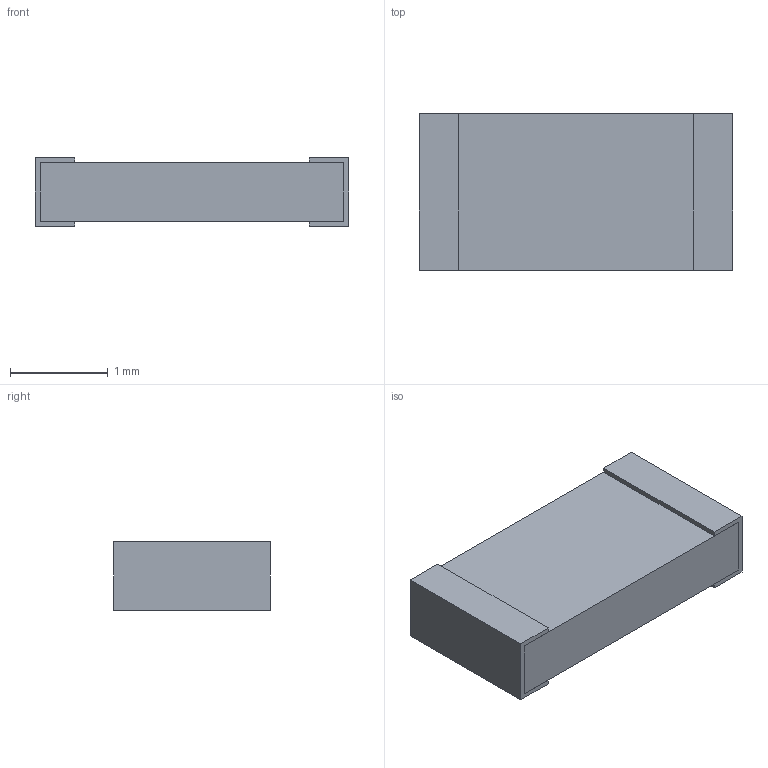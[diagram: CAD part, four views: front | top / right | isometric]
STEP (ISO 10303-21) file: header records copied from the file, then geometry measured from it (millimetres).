
FILE_DESCRIPTION(('STEP AP203'), '1');
FILE_NAME('Ð1-16-0,125', '', ('UNSPECIFIED'), ('UNSPECIFIED'), 'ASCON STEP Converter 1.6', 'ASCON Math Kernel', '');
FILE_SCHEMA(('CONFIG_CONTROL_DESIGN'));
Length unit declared in the file: millimetre
Bounding box: 3.2 x 1.6 x 0.7 mm (x, y, z)
Volume: 3.2 mm3; surface area: 25.1 mm2
Topology: 3 solids, 3 shells, 26 faces, 60 edges, 40 vertices
Faces by surface type: plane 26
Entity records: 988 total; most frequent: CARTESIAN_POINT 127, ORIENTED_EDGE 120, DIRECTION 114, EDGE_CURVE 60, LINE 60, VECTOR 60, VERTEX_POINT 40, COLOUR_RGB 29
